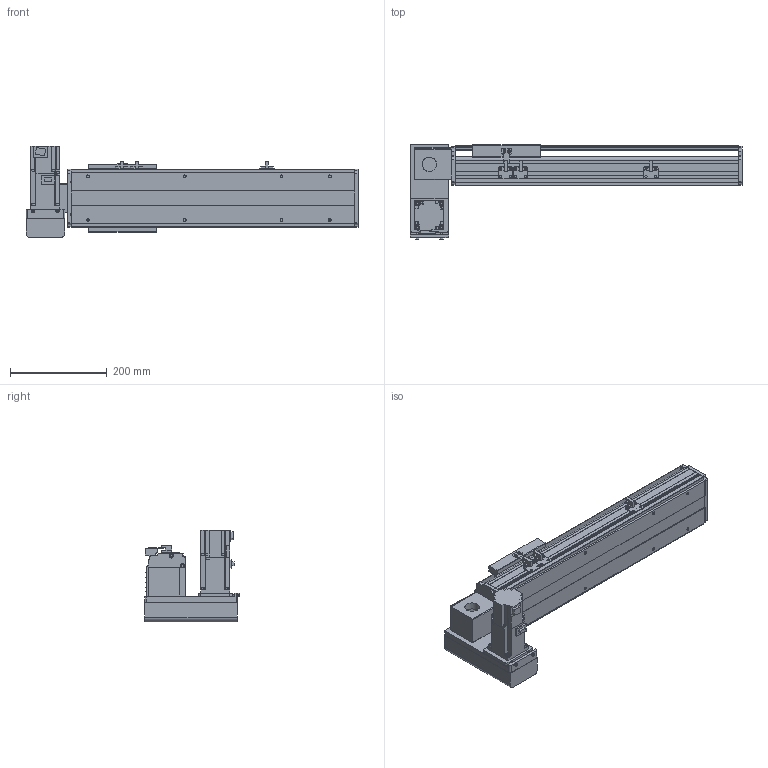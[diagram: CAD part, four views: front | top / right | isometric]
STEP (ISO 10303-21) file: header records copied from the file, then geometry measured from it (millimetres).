
FILE_DESCRIPTION(/* description */ ('STEP AP214'),/* implementation_level */ '2;1');
FILE_NAME(/* name */ 'PBS120-P40-S300-LD-T40-C1-N(0)',/* time_stamp */ '2022-06-06T02:15:35+02:00',/* author */ ('License CC BY-ND 4.0'),/* organization */ ('CADENAS'),/* preprocessor_version */ 'ST-DEVELOPER v18.102',/* originating_system */ 'PARTsolutions',/* authorisation */ ' ');
FILE_SCHEMA (('AUTOMOTIVE_DESIGN {1 0 10303 214 3 1 1}'));
Length unit declared in the file: millimetre
Products named in the file (7): PBS120-P40-S300-LD-T40-C1-N(0); PBS120_sensor; PBS120_plant; PBS120_sliser; T40-p1; PBS120T-LD_motors; PBS120-S300()_body
Assembly tree (8 placements, depth 2):
  PBS120-P40-S300-LD-T40-C1-N(0)
    PBS120_sensor  x3
    PBS120_plant
    PBS120_sliser
    T40-p1
    PBS120T-LD_motors
    PBS120-S300()_body
Bounding box: 686 x 196 x 189.7 mm (x, y, z)
Volume: 3682724.3 mm3; surface area: 661106.4 mm2
Topology: 8 solids, 8 shells, 804 faces, 2116 edges, 1363 vertices
Faces by surface type: plane 541, cylinder 221, cone 40, torus 2
Full cylindrical faces by diameter (mm): 2.459 x6, 3.242 x4, 4 x2, 4.134 x4, 4.5 x10, 4.917 x12, 5.5 x11, 6 x2, 6.6 x1, 7 x2, 8.5 x4, 9 x4, 12 x1, 14 x1, 30 x2, 40 x1, 50 x2
Entity records: 21114 total; most frequent: DIRECTION 3644, CARTESIAN_POINT 3605, ORIENTED_EDGE 3454, EDGE_CURVE 1727, LINE 1228, VECTOR 1228, AXIS2_PLACEMENT_3D 1208, VERTEX_POINT 1169
